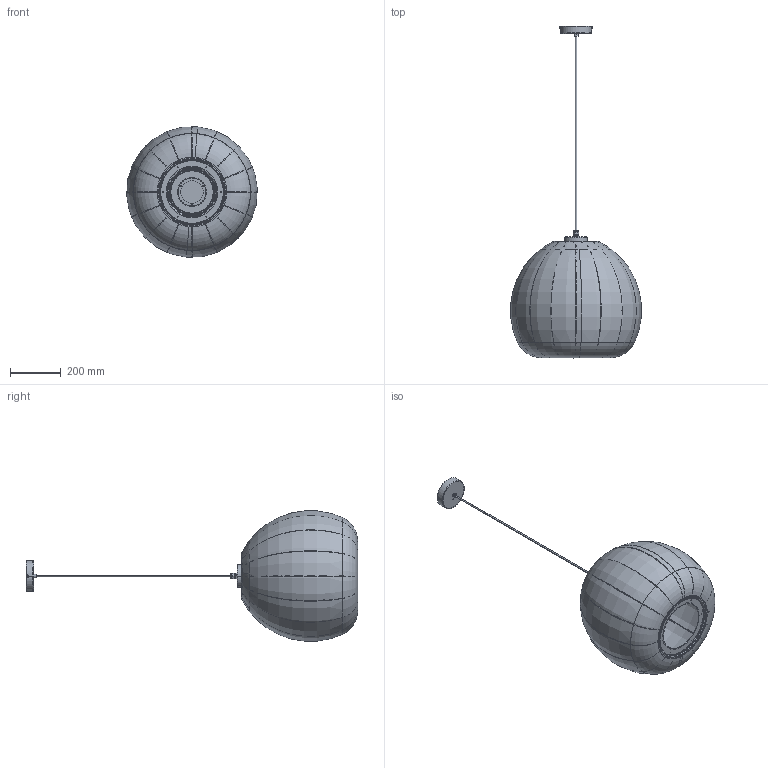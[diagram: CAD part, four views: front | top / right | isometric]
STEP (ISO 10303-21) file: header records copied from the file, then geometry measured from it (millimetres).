
FILE_DESCRIPTION (( 'STEP AP203' ), '1' );
FILE_NAME ('CA.S151.16_CALA suspensió Ø510x450.STEP', '2026-03-09T13:41:48', ( '' ), ( '' ), 'SwSTEP 2.0', 'SolidWorks 2013', '' );
FILE_SCHEMA (( 'CONFIG_CONTROL_DESIGN' ));
Length unit declared in the file: millimetre
Products named in the file (21): AR071_FLORÓ ø120x30 2xM4 sistema USA; GI419_Disc embellidor Ø246_Ø198; famella premsaestopa M16x1.5; GI420_disc embellidor Ø110_Ø90 3T Ø3.8; AR115.02_Disc Ø108 3T M3; AR115.01_Caixa amb escaló Ø111x46; AMS351_Armaçó Ø510x455 15 radis (entrada plana) aro inferior Ø260_v3; Conjunt NOU mòdul LED; CA.S151.16_CALA suspensió Ø510x450; KO014_CABLE TRANSP.800mm; TECH144.16_Conjunt LED outdoor_2023; GI430_Disc embellidor Ø166_Ø92; DIN7380 M3x10; TC170_Difusor Ø110 3T Ø3.8; Pantalla teixit Ø510x455; Ø70_CL386_XI_BB 11,4W a 500mA (EA); AR115_Caixa conjunt LED + disc Ø108 soldat; AG019_M4x8; EK44; XV001_Suport alumini Ø110x20_230724; CG-M16-1_PREMSAESTOPA M16
Assembly tree (23 placements, depth 5):
  CA.S151.16_CALA suspensió Ø510x450
    TECH144.16_Conjunt LED outdoor_2023
      KO014_CABLE TRANSP.800mm
      AR071_FLORÓ ø120x30 2xM4 sistema USA
      EK44
      AG019_M4x8  x2
      Conjunt NOU mòdul LED
        AR115_Caixa conjunt LED + disc Ø108 soldat
          AR115.01_Caixa amb escaló Ø111x46
          AR115.02_Disc Ø108 3T M3
        XV001_Suport alumini Ø110x20_230724
        Ø70_CL386_XI_BB 11,4W a 500mA (EA)
        TC170_Difusor Ø110 3T Ø3.8
        CG-M16-1_PREMSAESTOPA M16
        GI420_disc embellidor Ø110_Ø90 3T Ø3.8
        famella premsaestopa M16x1.5
        DIN7380 M3x10  x3
    AMS351_Armaçó Ø510x455 15 radis (entrada plana) aro inferior Ø260_v3
    GI419_Disc embellidor Ø246_Ø198
    Pantalla teixit Ø510x455
    GI430_Disc embellidor Ø166_Ø92
Bounding box: 513.56 x 1304.21 x 512.67 mm (x, y, z)
Volume: 1210916.8 mm3; surface area: 2023419.8 mm2
Topology: 22 solids, 22 shells, 778 faces, 1971 edges, 1240 vertices
Faces by surface type: plane 307, cylinder 210, torus 204, cone 49, bspline 4, sphere 4
Entity records: 26193 total; most frequent: CARTESIAN_POINT 5990, DIRECTION 3960, ORIENTED_EDGE 3646, EDGE_CURVE 1823, AXIS2_PLACEMENT_3D 1594, VERTEX_POINT 1150, CIRCLE 852, EDGE_LOOP 833
